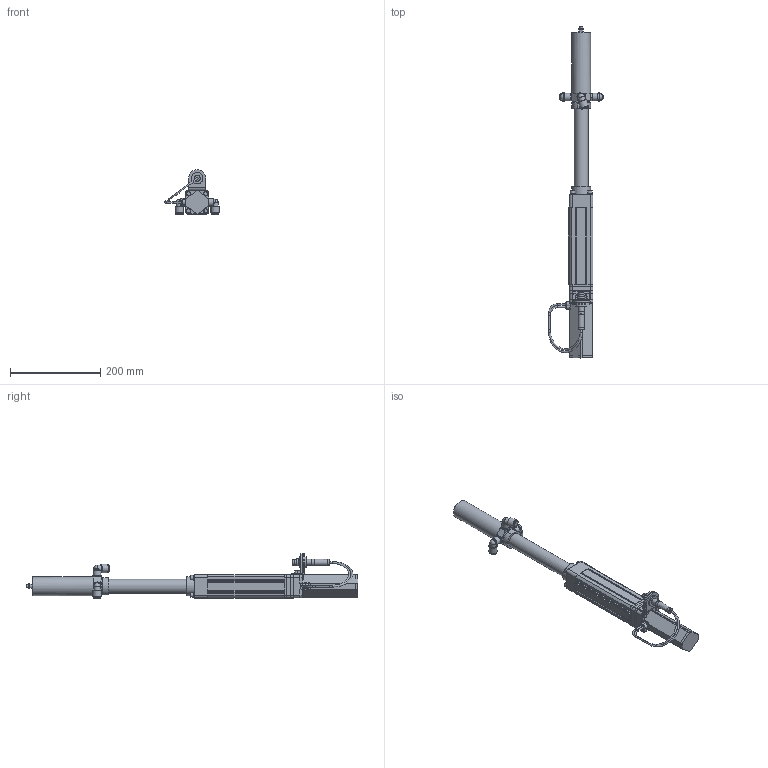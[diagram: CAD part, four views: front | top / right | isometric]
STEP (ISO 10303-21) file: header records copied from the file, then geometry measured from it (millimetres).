
FILE_DESCRIPTION(/* description */ (''),/* implementation_level */ '2;1');
FILE_NAME(/* name */ 'ASSY,VFIA,90MM,40MM BORE,S4 (622-93253) STEP FILE - REV C.stp',/* time_stamp */ '2026-03-25T13:11:30-04:00',/* author */ ('ASSY,VFIA,90MM,40MM BORE,S4'),/* organization */ ('CenterLine (Windsor) Limited'),/* preprocessor_version */ 'ST-DEVELOPER v20',/* originating_system */ 'Autodesk Inventor 2024',/* authorisation */ '');
FILE_SCHEMA (('AUTOMOTIVE_DESIGN { 1 0 10303 214 3 1 1 }'));
Length unit declared in the file: centimetre
Products named in the file (3): Assembly5; [Primary]_ASSY,VFIA,90MM,40MM BORE,S4; TOP_ASSY,VFIA,90MM,40MM BORE,S4
Assembly tree (2 placements, depth 2):
  Assembly5
    [Primary]_ASSY,VFIA,90MM,40MM BORE,S4
    TOP_ASSY,VFIA,90MM,40MM BORE,S4
Bounding box: 120.97 x 734.8 x 98.66 mm (x, y, z)
Volume: 2510050.8 mm3; surface area: 303361.9 mm2
Topology: 2 solids, 2 shells, 715 faces, 1664 edges, 1027 vertices
Faces by surface type: plane 370, cylinder 186, cone 137, torus 16, sphere 6
Full cylindrical faces by diameter (mm): 3.5 x6, 5.5 x4, 6 x5, 10 x16, 10.8 x12, 10.92 x2, 11.1 x6, 12 x2, 13.44 x2, 16 x3, 16.5 x6, 17 x6, 18.5 x6, 25 x4, 31.75 x2, 36.576 x2, 41.275 x2, 41.402 x2
Entity records: 20494 total; most frequent: CARTESIAN_POINT 4041, DIRECTION 3593, ORIENTED_EDGE 3316, EDGE_CURVE 1658, AXIS2_PLACEMENT_3D 1403, VERTEX_POINT 1025, EDGE_LOOP 811, LINE 787
